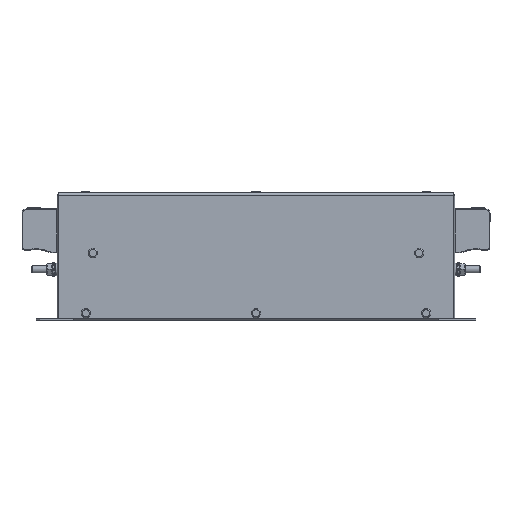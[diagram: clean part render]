
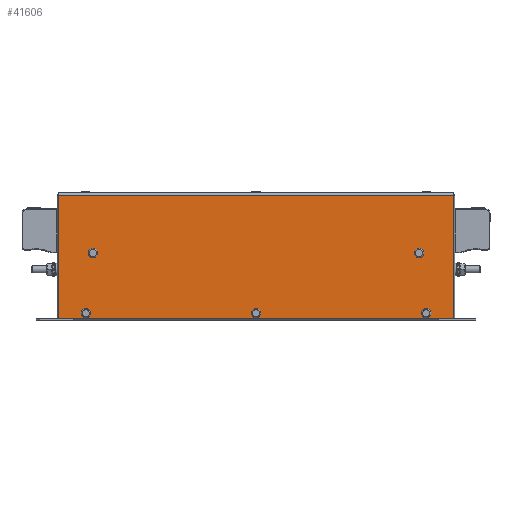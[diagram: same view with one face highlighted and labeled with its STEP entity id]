
A CAD part, front view. The second image highlights one B-rep face of the part: STEP entity #41606.
In plain terms, the highlighted planar face has unit normal (0, -1, 0).
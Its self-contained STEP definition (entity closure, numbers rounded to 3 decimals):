
#35197=CARTESIAN_POINT('',(-3.25,-25.,5.));
#35198=VERTEX_POINT('',#35197);
#35199=CARTESIAN_POINT('',(0.,-25.,5.));
#35200=DIRECTION('',(0.0,1.0,0.0));
#35201=DIRECTION('',(-1.0,0.0,0.0));
#35202=AXIS2_PLACEMENT_3D('',#35199,#35200,#35201);
#35203=CIRCLE('',#35202,3.25);
#35204=EDGE_CURVE('',#35198,#35198,#35203,.T.);
#35565=CARTESIAN_POINT('',(116.75,-25.,5.));
#35566=VERTEX_POINT('',#35565);
#35567=CARTESIAN_POINT('',(120.,-25.,5.));
#35568=DIRECTION('',(0.,1.0,0.));
#35569=DIRECTION('',(-1.0,0.,0.));
#35570=AXIS2_PLACEMENT_3D('',#35567,#35568,#35569);
#35571=CIRCLE('',#35570,3.25);
#35572=EDGE_CURVE('',#35566,#35566,#35571,.T.);
#35749=CARTESIAN_POINT('',(-123.25,-25.,5.));
#35750=VERTEX_POINT('',#35749);
#35751=CARTESIAN_POINT('',(-120.,-25.,5.));
#35752=DIRECTION('',(0.,1.0,0.));
#35753=DIRECTION('',(-1.0,0.,0.));
#35754=AXIS2_PLACEMENT_3D('',#35751,#35752,#35753);
#35755=CIRCLE('',#35754,3.25);
#35756=EDGE_CURVE('',#35750,#35750,#35755,.T.);
#35933=CARTESIAN_POINT('',(111.75,-25.,47.5));
#35934=VERTEX_POINT('',#35933);
#35935=CARTESIAN_POINT('',(115.,-25.,47.5));
#35936=DIRECTION('',(0.0,1.0,0.0));
#35937=DIRECTION('',(-1.0,0.0,0.0));
#35938=AXIS2_PLACEMENT_3D('',#35935,#35936,#35937);
#35939=CIRCLE('',#35938,3.25);
#35940=EDGE_CURVE('',#35934,#35934,#35939,.T.);
#36117=CARTESIAN_POINT('',(-118.25,-25.,47.5));
#36118=VERTEX_POINT('',#36117);
#36119=CARTESIAN_POINT('',(-115.,-25.,47.5));
#36120=DIRECTION('',(0.,1.0,0.));
#36121=DIRECTION('',(-1.0,0.,0.));
#36122=AXIS2_PLACEMENT_3D('',#36119,#36120,#36121);
#36123=CIRCLE('',#36122,3.25);
#36124=EDGE_CURVE('',#36118,#36118,#36123,.T.);
#41159=CARTESIAN_POINT('',(-139.5,-25.,1.));
#41160=VERTEX_POINT('',#41159);
#41167=CARTESIAN_POINT('',(-139.5,-25.,88.2));
#41168=VERTEX_POINT('',#41167);
#41169=CARTESIAN_POINT('',(-139.5,-25.,1.));
#41170=DIRECTION('',(0.0,0.0,1.0));
#41171=VECTOR('',#41170,87.2);
#41172=LINE('',#41169,#41171);
#41173=EDGE_CURVE('',#41160,#41168,#41172,.T.);
#41361=CARTESIAN_POINT('',(139.5,-25.,88.2));
#41362=VERTEX_POINT('',#41361);
#41370=CARTESIAN_POINT('',(139.5,-25.,1.));
#41371=VERTEX_POINT('',#41370);
#41372=CARTESIAN_POINT('',(139.5,-25.,1.));
#41373=DIRECTION('',(0.0,0.0,1.0));
#41374=VECTOR('',#41373,87.2);
#41375=LINE('',#41372,#41374);
#41376=EDGE_CURVE('',#41371,#41362,#41375,.T.);
#41557=CARTESIAN_POINT('',(-139.5,-25.,1.));
#41558=DIRECTION('',(1.0,0.0,0.0));
#41559=VECTOR('',#41558,279.0);
#41560=LINE('',#41557,#41559);
#41561=EDGE_CURVE('',#41160,#41371,#41560,.T.);
#41575=CARTESIAN_POINT('',(0.0,-25.,1.));
#41576=DIRECTION('',(0.0,-1.0,0.0));
#41577=DIRECTION('',(0.0,0.0,-1.0));
#41578=AXIS2_PLACEMENT_3D('',#41575,#41576,#41577);
#41579=PLANE('',#41578);
#41580=CARTESIAN_POINT('',(-139.5,-25.,88.2));
#41581=DIRECTION('',(1.0,0.0,0.0));
#41582=VECTOR('',#41581,279.0);
#41583=LINE('',#41580,#41582);
#41584=EDGE_CURVE('',#41168,#41362,#41583,.T.);
#41585=ORIENTED_EDGE('',*,*,#41584,.F.);
#41586=ORIENTED_EDGE('',*,*,#41173,.F.);
#41587=ORIENTED_EDGE('',*,*,#41561,.T.);
#41588=ORIENTED_EDGE('',*,*,#41376,.T.);
#41589=EDGE_LOOP('',(#41585,#41586,#41587,#41588));
#41590=FACE_OUTER_BOUND('',#41589,.T.);
#41591=ORIENTED_EDGE('',*,*,#35204,.T.);
#41592=EDGE_LOOP('',(#41591));
#41593=FACE_BOUND('',#41592,.T.);
#41594=ORIENTED_EDGE('',*,*,#35572,.T.);
#41595=EDGE_LOOP('',(#41594));
#41596=FACE_BOUND('',#41595,.T.);
#41597=ORIENTED_EDGE('',*,*,#35756,.T.);
#41598=EDGE_LOOP('',(#41597));
#41599=FACE_BOUND('',#41598,.T.);
#41600=ORIENTED_EDGE('',*,*,#35940,.T.);
#41601=EDGE_LOOP('',(#41600));
#41602=FACE_BOUND('',#41601,.T.);
#41603=ORIENTED_EDGE('',*,*,#36124,.T.);
#41604=EDGE_LOOP('',(#41603));
#41605=FACE_BOUND('',#41604,.T.);
#41606=ADVANCED_FACE('',(#41590,#41593,#41596,#41599,#41602,#41605),#41579,.T.);
